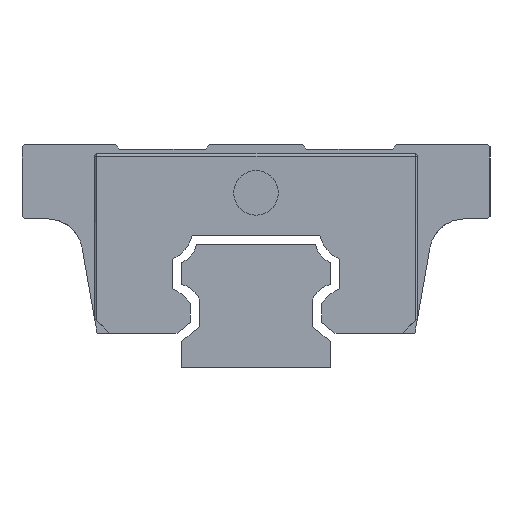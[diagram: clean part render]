
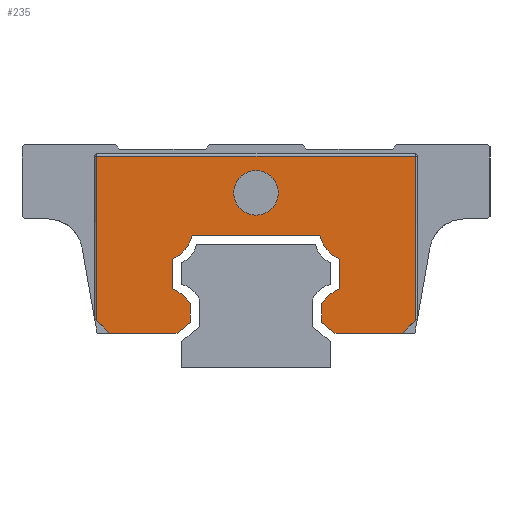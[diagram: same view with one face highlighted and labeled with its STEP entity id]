
A CAD part, left-side view. The second image highlights one B-rep face of the part: STEP entity #235.
In plain terms, the highlighted planar face has unit normal (-1, 0, 0).
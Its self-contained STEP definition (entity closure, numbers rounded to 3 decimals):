
#47=FACE_BOUND('',#560,.T.);
#48=FACE_BOUND('',#561,.T.);
#235=ADVANCED_FACE('',(#47,#48),#373,.T.);
#373=PLANE('',#2506);
#560=EDGE_LOOP('',(#1261));
#561=EDGE_LOOP('',(#1262,#1263,#1264,#1265,#1266,#1267,#1268,#1269,#1270,
#1271,#1272,#1273,#1274,#1275,#1276,#1277,#1278,#1279));
#752=LINE('',#3486,#960);
#758=LINE('',#3502,#966);
#761=LINE('',#3508,#969);
#768=LINE('',#3522,#976);
#769=LINE('',#3532,#977);
#782=LINE('',#3559,#990);
#791=LINE('',#3579,#999);
#794=LINE('',#3585,#1002);
#799=LINE('',#3594,#1007);
#807=LINE('',#3611,#1015);
#814=LINE('',#3626,#1022);
#815=LINE('',#3630,#1023);
#816=LINE('',#3632,#1024);
#817=LINE('',#3634,#1025);
#960=VECTOR('',#2759,1.);
#966=VECTOR('',#2773,1.);
#969=VECTOR('',#2778,1.);
#976=VECTOR('',#2787,1.);
#977=VECTOR('',#2792,1.);
#990=VECTOR('',#2813,1.);
#999=VECTOR('',#2826,1.);
#1002=VECTOR('',#2831,1.);
#1007=VECTOR('',#2838,1.);
#1015=VECTOR('',#2852,1.);
#1022=VECTOR('',#2865,1.);
#1023=VECTOR('',#2870,1.);
#1024=VECTOR('',#2871,1.);
#1025=VECTOR('',#2872,1.);
#1261=ORIENTED_EDGE('',*,*,#2120,.F.);
#1262=ORIENTED_EDGE('',*,*,#2071,.T.);
#1263=ORIENTED_EDGE('',*,*,#2121,.T.);
#1264=ORIENTED_EDGE('',*,*,#2122,.T.);
#1265=ORIENTED_EDGE('',*,*,#2123,.T.);
#1266=ORIENTED_EDGE('',*,*,#2084,.T.);
#1267=ORIENTED_EDGE('',*,*,#2094,.T.);
#1268=ORIENTED_EDGE('',*,*,#2097,.T.);
#1269=ORIENTED_EDGE('',*,*,#2102,.T.);
#1270=ORIENTED_EDGE('',*,*,#2104,.T.);
#1271=ORIENTED_EDGE('',*,*,#2111,.T.);
#1272=ORIENTED_EDGE('',*,*,#2113,.T.);
#1273=ORIENTED_EDGE('',*,*,#2119,.T.);
#1274=ORIENTED_EDGE('',*,*,#2042,.T.);
#1275=ORIENTED_EDGE('',*,*,#2050,.T.);
#1276=ORIENTED_EDGE('',*,*,#2053,.T.);
#1277=ORIENTED_EDGE('',*,*,#2058,.T.);
#1278=ORIENTED_EDGE('',*,*,#2061,.T.);
#1279=ORIENTED_EDGE('',*,*,#2068,.T.);
#1819=VERTEX_POINT('',#3469);
#1820=VERTEX_POINT('',#3471);
#1826=VERTEX_POINT('',#3485);
#1828=VERTEX_POINT('',#3491);
#1832=VERTEX_POINT('',#3501);
#1834=VERTEX_POINT('',#3507);
#1840=VERTEX_POINT('',#3521);
#1843=VERTEX_POINT('',#3531);
#1854=VERTEX_POINT('',#3560);
#1855=VERTEX_POINT('',#3561);
#1862=VERTEX_POINT('',#3578);
#1864=VERTEX_POINT('',#3584);
#1867=VERTEX_POINT('',#3593);
#1868=VERTEX_POINT('',#3597);
#1873=VERTEX_POINT('',#3610);
#1874=VERTEX_POINT('',#3614);
#1879=VERTEX_POINT('',#3629);
#1880=VERTEX_POINT('',#3631);
#1881=VERTEX_POINT('',#3633);
#2042=EDGE_CURVE('',#1820,#1819,#2366,.T.);
#2050=EDGE_CURVE('',#1819,#1826,#752,.T.);
#2053=EDGE_CURVE('',#1826,#1828,#2368,.T.);
#2058=EDGE_CURVE('',#1828,#1832,#758,.T.);
#2061=EDGE_CURVE('',#1832,#1834,#761,.T.);
#2068=EDGE_CURVE('',#1834,#1840,#768,.T.);
#2071=EDGE_CURVE('',#1840,#1843,#769,.T.);
#2084=EDGE_CURVE('',#1854,#1855,#782,.T.);
#2094=EDGE_CURVE('',#1855,#1862,#791,.T.);
#2097=EDGE_CURVE('',#1862,#1864,#794,.T.);
#2102=EDGE_CURVE('',#1864,#1867,#799,.T.);
#2104=EDGE_CURVE('',#1867,#1868,#2369,.T.);
#2111=EDGE_CURVE('',#1868,#1873,#807,.T.);
#2113=EDGE_CURVE('',#1873,#1874,#2370,.T.);
#2119=EDGE_CURVE('',#1874,#1820,#814,.T.);
#2120=EDGE_CURVE('',#1879,#1879,#2371,.T.);
#2121=EDGE_CURVE('',#1843,#1880,#815,.T.);
#2122=EDGE_CURVE('',#1880,#1881,#816,.T.);
#2123=EDGE_CURVE('',#1881,#1854,#817,.T.);
#2366=CIRCLE('',#2480,4.75);
#2368=CIRCLE('',#2484,4.75);
#2369=CIRCLE('',#2499,4.75);
#2370=CIRCLE('',#2502,4.75);
#2371=CIRCLE('',#2505,3.);
#2480=AXIS2_PLACEMENT_3D('',#3470,#2748,#2749);
#2484=AXIS2_PLACEMENT_3D('',#3492,#2765,#2766);
#2499=AXIS2_PLACEMENT_3D('',#3598,#2842,#2843);
#2502=AXIS2_PLACEMENT_3D('',#3615,#2856,#2857);
#2505=AXIS2_PLACEMENT_3D('',#3628,#2868,#2869);
#2506=AXIS2_PLACEMENT_3D('',#3635,#2873,#2874);
#2748=DIRECTION('',(-1.,0.,0.));
#2749=DIRECTION('',(0.,1.,0.));
#2759=DIRECTION('',(0.,0.,-1.));
#2765=DIRECTION('',(-1.,0.,0.));
#2766=DIRECTION('',(0.,1.,0.));
#2773=DIRECTION('',(0.,0.,-1.));
#2778=DIRECTION('',(0.,-0.766,-0.643));
#2787=DIRECTION('',(0.,-1.,0.));
#2792=DIRECTION('',(0.,-0.707,0.707));
#2813=DIRECTION('',(0.,-0.707,-0.707));
#2826=DIRECTION('',(0.,-1.,0.));
#2831=DIRECTION('',(0.,-0.766,0.643));
#2838=DIRECTION('',(0.,0.,1.));
#2842=DIRECTION('',(-1.,0.,0.));
#2843=DIRECTION('',(0.,-1.,0.));
#2852=DIRECTION('',(0.,0.,1.));
#2856=DIRECTION('',(-1.,0.,0.));
#2857=DIRECTION('',(0.,-1.,0.));
#2865=DIRECTION('',(0.,-1.,0.));
#2868=DIRECTION('',(-1.,0.,0.));
#2869=DIRECTION('',(0.,1.,0.));
#2870=DIRECTION('',(0.,0.,1.));
#2871=DIRECTION('',(0.,1.,0.));
#2872=DIRECTION('',(0.,0.,-1.));
#2873=DIRECTION('',(-1.,0.,0.));
#2874=DIRECTION('',(0.,0.,1.));
#3469=CARTESIAN_POINT('',(-49.8,-11.25,14.571));
#3470=CARTESIAN_POINT('',(-49.8,-13.19,18.907));
#3471=CARTESIAN_POINT('',(-49.8,-8.583,17.75));
#3485=CARTESIAN_POINT('',(-49.8,-11.25,10.584));
#3486=CARTESIAN_POINT('',(-49.8,-11.25,14.571));
#3491=CARTESIAN_POINT('',(-49.8,-8.866,8.584));
#3492=CARTESIAN_POINT('',(-49.8,-12.943,6.146));
#3501=CARTESIAN_POINT('',(-49.8,-8.866,6.083));
#3502=CARTESIAN_POINT('',(-49.8,-8.866,8.584));
#3507=CARTESIAN_POINT('',(-49.8,-10.634,4.6));
#3508=CARTESIAN_POINT('',(-49.8,-8.866,6.083));
#3521=CARTESIAN_POINT('',(-49.8,-19.731,4.6));
#3522=CARTESIAN_POINT('',(-49.8,-10.634,4.6));
#3531=CARTESIAN_POINT('',(-49.8,-21.421,6.291));
#3532=CARTESIAN_POINT('',(-49.8,-19.731,4.6));
#3559=CARTESIAN_POINT('',(-49.8,21.736,6.6));
#3560=CARTESIAN_POINT('',(-49.8,21.421,6.285));
#3561=CARTESIAN_POINT('',(-49.8,19.736,4.6));
#3578=CARTESIAN_POINT('',(-49.8,10.634,4.6));
#3579=CARTESIAN_POINT('',(-49.8,19.736,4.6));
#3584=CARTESIAN_POINT('',(-49.8,8.866,6.083));
#3585=CARTESIAN_POINT('',(-49.8,10.634,4.6));
#3593=CARTESIAN_POINT('',(-49.8,8.866,8.584));
#3594=CARTESIAN_POINT('',(-49.8,8.866,6.083));
#3597=CARTESIAN_POINT('',(-49.8,11.25,10.584));
#3598=CARTESIAN_POINT('',(-49.8,12.943,6.146));
#3610=CARTESIAN_POINT('',(-49.8,11.25,14.571));
#3611=CARTESIAN_POINT('',(-49.8,11.25,10.584));
#3614=CARTESIAN_POINT('',(-49.8,8.583,17.75));
#3615=CARTESIAN_POINT('',(-49.8,13.19,18.907));
#3626=CARTESIAN_POINT('',(-49.8,8.583,17.75));
#3628=CARTESIAN_POINT('',(-49.8,0.,23.5));
#3629=CARTESIAN_POINT('',(-49.8,3.,23.5));
#3630=CARTESIAN_POINT('',(-49.8,-21.421,28.75));
#3631=CARTESIAN_POINT('',(-49.8,-21.421,28.435));
#3632=CARTESIAN_POINT('',(-49.8,21.736,28.435));
#3633=CARTESIAN_POINT('',(-49.8,21.421,28.435));
#3634=CARTESIAN_POINT('',(-49.8,21.421,6.6));
#3635=CARTESIAN_POINT('',(-49.8,-13.19,18.907));
